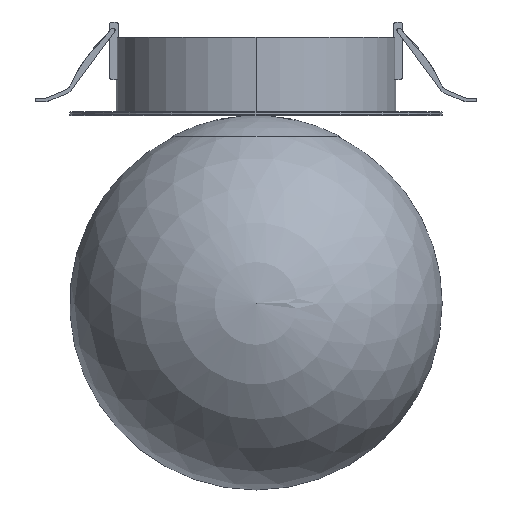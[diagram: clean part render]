
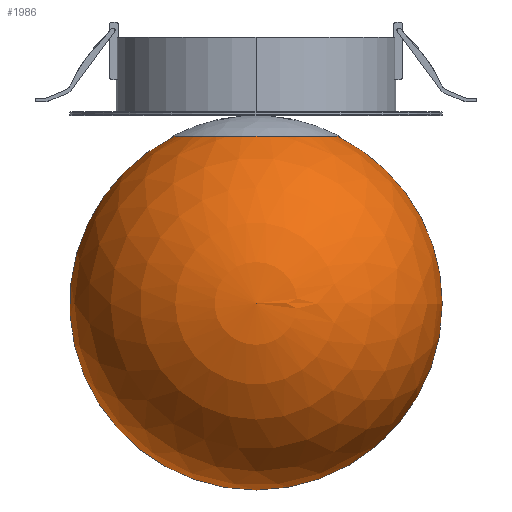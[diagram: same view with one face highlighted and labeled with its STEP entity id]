
A CAD part, top view. The second image highlights one B-rep face of the part: STEP entity #1986.
In plain terms, the highlighted spherical face has radius 50 mm.
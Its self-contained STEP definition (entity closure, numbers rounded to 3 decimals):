
#228 = CARTESIAN_POINT ( 'NONE',  ( 0., 0., 0. ) ) ;
#337 = CARTESIAN_POINT ( 'NONE',  ( 0., 45., 0. ) ) ;
#369 = AXIS2_PLACEMENT_3D ( 'NONE', #228, #2233, #1794 ) ;
#447 = ORIENTED_EDGE ( 'NONE', *, *, #3216, .F. ) ;
#545 = ORIENTED_EDGE ( 'NONE', *, *, #2834, .F. ) ;
#643 = EDGE_LOOP ( 'NONE', ( #447, #2481, #545 ) ) ;
#856 = DIRECTION ( 'NONE',  ( 0., 1., 0. ) ) ;
#950 = AXIS2_PLACEMENT_3D ( 'NONE', #2869, #2119, #1323 ) ;
#957 = CARTESIAN_POINT ( 'NONE',  ( 0., 0., 0. ) ) ;
#965 = AXIS2_PLACEMENT_3D ( 'NONE', #337, #856, #1613 ) ;
#1296 = AXIS2_PLACEMENT_3D ( 'NONE', #957, #2598, #2102 ) ;
#1323 = DIRECTION ( 'NONE',  ( 1., 0., 0. ) ) ;
#1480 = CARTESIAN_POINT ( 'NONE',  ( -21.794, 45., 0. ) ) ;
#1613 = DIRECTION ( 'NONE',  ( 0., 0., -1. ) ) ;
#1615 = CIRCLE ( 'NONE', #1296, 50. ) ;
#1719 = CIRCLE ( 'NONE', #965, 21.794 ) ;
#1794 = DIRECTION ( 'NONE',  ( 1., 0., 0. ) ) ;
#1986 = ADVANCED_FACE ( 'NONE', ( #3248 ), #2543, .T. ) ;
#2029 = VERTEX_POINT ( 'NONE', #2854 ) ;
#2084 = EDGE_CURVE ( 'NONE', #2029, #3261, #2131, .T. ) ;
#2102 = DIRECTION ( 'NONE',  ( -1., 0., 0. ) ) ;
#2119 = DIRECTION ( 'NONE',  ( 0., 0., 1. ) ) ;
#2131 = CIRCLE ( 'NONE', #950, 50. ) ;
#2233 = DIRECTION ( 'NONE',  ( 0., 0., -1. ) ) ;
#2378 = VERTEX_POINT ( 'NONE', #1480 ) ;
#2481 = ORIENTED_EDGE ( 'NONE', *, *, #2084, .T. ) ;
#2543 = SPHERICAL_SURFACE ( 'NONE', #369, 50. ) ;
#2598 = DIRECTION ( 'NONE',  ( 0., 0., -1. ) ) ;
#2834 = EDGE_CURVE ( 'NONE', #2378, #3261, #1719, .T. ) ;
#2854 = CARTESIAN_POINT ( 'NONE',  ( 0., -50., 0. ) ) ;
#2869 = CARTESIAN_POINT ( 'NONE',  ( 0., 0., 0. ) ) ;
#3095 = CARTESIAN_POINT ( 'NONE',  ( 21.794, 45., 0. ) ) ;
#3216 = EDGE_CURVE ( 'NONE', #2029, #2378, #1615, .T. ) ;
#3248 = FACE_OUTER_BOUND ( 'NONE', #643, .T. ) ;
#3261 = VERTEX_POINT ( 'NONE', #3095 ) ;
